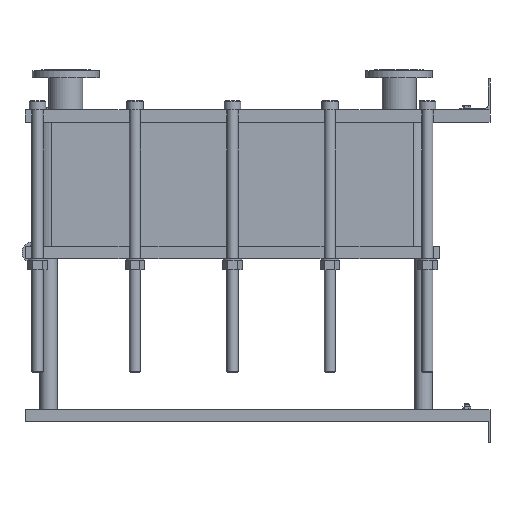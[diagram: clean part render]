
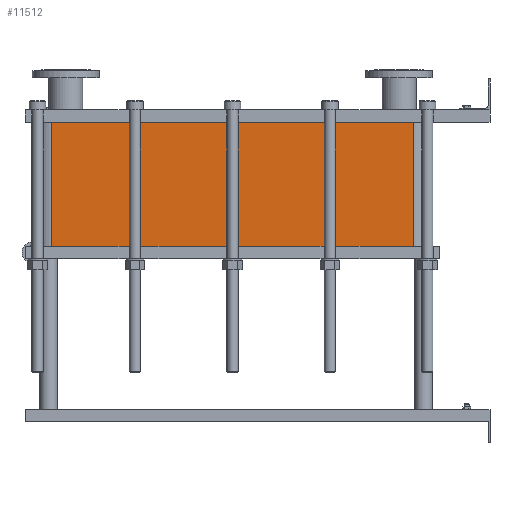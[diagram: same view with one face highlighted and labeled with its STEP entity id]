
A CAD part, left-side view. The second image highlights one B-rep face of the part: STEP entity #11512.
In plain terms, the highlighted planar face has unit normal (-1, 0, 0).
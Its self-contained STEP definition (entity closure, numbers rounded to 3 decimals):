
#1129=LINE('',#23232,#2102);
#1130=LINE('',#23236,#2103);
#1131=LINE('',#23238,#2104);
#1132=LINE('',#23239,#2105);
#2102=VECTOR('',#15887,10.);
#2103=VECTOR('',#15892,10.);
#2104=VECTOR('',#15893,10.);
#2105=VECTOR('',#15894,10.);
#3267=FACE_OUTER_BOUND('',#4093,.T.);
#4093=EDGE_LOOP('',(#10103,#10104,#10105,#10106));
#5642=VERTEX_POINT('',#23229);
#5643=VERTEX_POINT('',#23231);
#5644=VERTEX_POINT('',#23235);
#5645=VERTEX_POINT('',#23237);
#7159=EDGE_CURVE('',#5643,#5642,#1129,.T.);
#7161=EDGE_CURVE('',#5642,#5644,#1130,.T.);
#7162=EDGE_CURVE('',#5645,#5644,#1131,.T.);
#7163=EDGE_CURVE('',#5645,#5643,#1132,.T.);
#10103=ORIENTED_EDGE('',*,*,#7161,.T.);
#10104=ORIENTED_EDGE('',*,*,#7162,.F.);
#10105=ORIENTED_EDGE('',*,*,#7163,.T.);
#10106=ORIENTED_EDGE('',*,*,#7159,.T.);
#10857=PLANE('',#12751);
#11512=ADVANCED_FACE('',(#3267),#10857,.T.);
#12751=AXIS2_PLACEMENT_3D('',#23234,#15890,#15891);
#15887=DIRECTION('',(0.,0.,-1.));
#15890=DIRECTION('center_axis',(-1.,0.,0.));
#15891=DIRECTION('ref_axis',(0.,1.,0.));
#15892=DIRECTION('',(0.,-1.,0.));
#15893=DIRECTION('',(0.,0.,-1.));
#15894=DIRECTION('',(0.,1.,0.));
#23229=CARTESIAN_POINT('',(-200.,1414.,-400.2));
#23231=CARTESIAN_POINT('',(-200.,1414.,0.));
#23232=CARTESIAN_POINT('',(-200.,1414.,0.));
#23234=CARTESIAN_POINT('Origin',(-200.,248.,0.));
#23235=CARTESIAN_POINT('',(-200.,248.,-400.2));
#23236=CARTESIAN_POINT('',(-200.,539.5,-400.2));
#23237=CARTESIAN_POINT('',(-200.,248.,0.));
#23238=CARTESIAN_POINT('',(-200.,248.,0.));
#23239=CARTESIAN_POINT('',(-200.,248.,0.));
